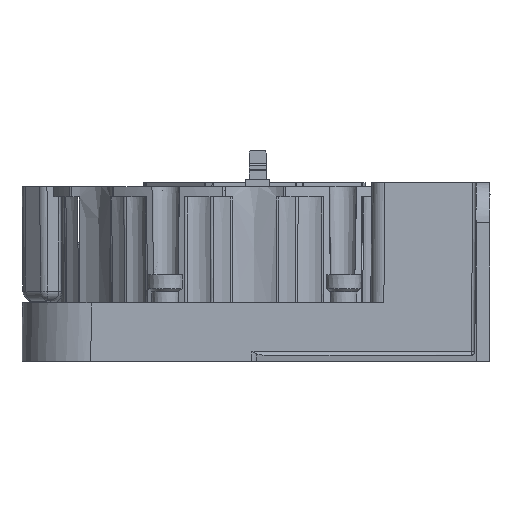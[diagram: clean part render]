
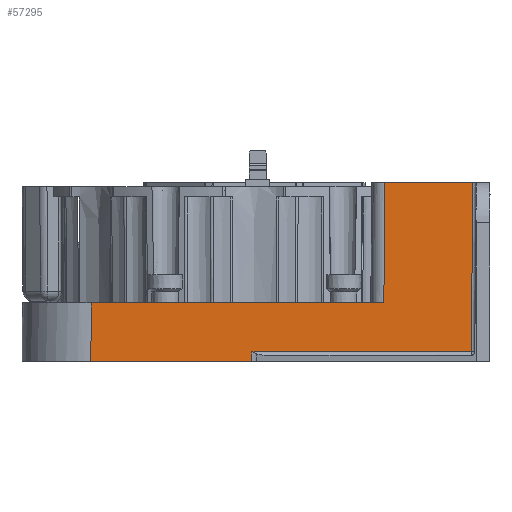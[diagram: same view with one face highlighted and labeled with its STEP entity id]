
A CAD part, left-side view. The second image highlights one B-rep face of the part: STEP entity #57295.
In plain terms, the highlighted planar face has unit normal (-1, 0, 0.009).
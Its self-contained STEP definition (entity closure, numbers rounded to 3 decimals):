
#1111=CARTESIAN_POINT('',(-67.352,47.352,6.998));
#1112=VERTEX_POINT('',#1111);
#1120=CARTESIAN_POINT('',(-67.352,-37.651,6.998));
#1121=VERTEX_POINT('',#1120);
#1122=CARTESIAN_POINT('',(-67.352,-37.651,6.998));
#1123=DIRECTION('',(0.0,1.0,0.0));
#1124=VECTOR('',#1123,85.004);
#1125=LINE('',#1122,#1124);
#1126=EDGE_CURVE('',#1121,#1112,#1125,.T.);
#4861=CARTESIAN_POINT('',(-67.5,0.666,-10.002));
#4862=VERTEX_POINT('',#4861);
#4870=CARTESIAN_POINT('',(-67.5,47.501,-10.002));
#4871=VERTEX_POINT('',#4870);
#4872=CARTESIAN_POINT('',(-67.5,0.666,-10.002));
#4873=DIRECTION('',(0.0,1.0,0.0));
#4874=VECTOR('',#4873,46.835);
#4875=LINE('',#4872,#4874);
#4876=EDGE_CURVE('',#4862,#4871,#4875,.T.);
#22673=CARTESIAN_POINT('',(-67.046,-37.957,41.998));
#22674=VERTEX_POINT('',#22673);
#22682=CARTESIAN_POINT('',(-67.046,-63.5,41.998));
#22683=VERTEX_POINT('',#22682);
#22684=CARTESIAN_POINT('',(-67.046,-37.957,41.998));
#22685=DIRECTION('',(0.0,-1.0,0.0));
#22686=VECTOR('',#22685,25.543);
#22687=LINE('',#22684,#22686);
#22688=EDGE_CURVE('',#22674,#22683,#22687,.T.);
#57233=CARTESIAN_POINT('',(-67.476,0.663,-7.21));
#57234=VERTEX_POINT('',#57233);
#57242=CARTESIAN_POINT('',(-67.476,0.663,-7.21));
#57243=DIRECTION('',(-0.009,0.001,-1.));
#57244=VECTOR('',#57243,2.791);
#57245=LINE('',#57242,#57244);
#57246=EDGE_CURVE('',#57234,#4862,#57245,.T.);
#57258=CARTESIAN_POINT('',(-67.5,-67.5,-10.002));
#57259=DIRECTION('',(-1.,0.0,0.009));
#57260=DIRECTION('',(0.0,-1.0,0.0));
#57261=AXIS2_PLACEMENT_3D('',#57258,#57259,#57260);
#57262=PLANE('',#57261);
#57263=ORIENTED_EDGE('',*,*,#57246,.F.);
#57264=CARTESIAN_POINT('',(-67.476,-63.071,-7.21));
#57265=VERTEX_POINT('',#57264);
#57266=CARTESIAN_POINT('',(-67.476,-63.071,-7.21));
#57267=DIRECTION('',(0.0,1.0,0.0));
#57268=VECTOR('',#57267,63.734);
#57269=LINE('',#57266,#57268);
#57270=EDGE_CURVE('',#57265,#57234,#57269,.T.);
#57271=ORIENTED_EDGE('',*,*,#57270,.F.);
#57272=CARTESIAN_POINT('',(-67.046,-63.5,41.998));
#57273=DIRECTION('',(-0.009,0.009,-1.));
#57274=VECTOR('',#57273,49.212);
#57275=LINE('',#57272,#57274);
#57276=EDGE_CURVE('',#22683,#57265,#57275,.T.);
#57277=ORIENTED_EDGE('',*,*,#57276,.F.);
#57278=ORIENTED_EDGE('',*,*,#22688,.F.);
#57279=CARTESIAN_POINT('',(-67.352,-37.651,6.998));
#57280=DIRECTION('',(0.009,-0.009,1.));
#57281=VECTOR('',#57280,35.003);
#57282=LINE('',#57279,#57281);
#57283=EDGE_CURVE('',#1121,#22674,#57282,.T.);
#57284=ORIENTED_EDGE('',*,*,#57283,.F.);
#57285=ORIENTED_EDGE('',*,*,#1126,.T.);
#57286=CARTESIAN_POINT('',(-67.5,47.501,-10.002));
#57287=DIRECTION('',(0.009,-0.009,1.));
#57288=VECTOR('',#57287,17.001);
#57289=LINE('',#57286,#57288);
#57290=EDGE_CURVE('',#4871,#1112,#57289,.T.);
#57291=ORIENTED_EDGE('',*,*,#57290,.F.);
#57292=ORIENTED_EDGE('',*,*,#4876,.F.);
#57293=EDGE_LOOP('',(#57263,#57271,#57277,#57278,#57284,#57285,#57291,#57292));
#57294=FACE_OUTER_BOUND('',#57293,.T.);
#57295=ADVANCED_FACE('',(#57294),#57262,.T.);
